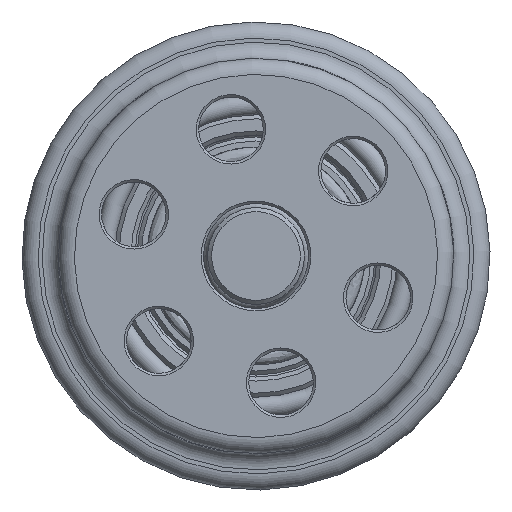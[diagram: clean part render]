
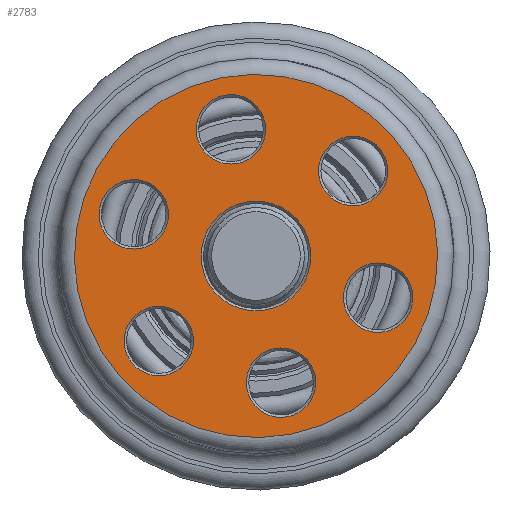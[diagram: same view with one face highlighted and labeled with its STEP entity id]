
A CAD part, left-side view. The second image highlights one B-rep face of the part: STEP entity #2783.
In plain terms, the highlighted planar face has unit normal (-1, 0, 0).
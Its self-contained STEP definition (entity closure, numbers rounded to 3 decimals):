
#363=FACE_BOUND('',#665,.T.);
#364=FACE_BOUND('',#666,.T.);
#365=FACE_BOUND('',#667,.T.);
#366=FACE_BOUND('',#668,.T.);
#367=FACE_BOUND('',#669,.T.);
#368=FACE_BOUND('',#670,.T.);
#369=FACE_BOUND('',#671,.T.);
#402=PLANE('',#3039);
#507=FACE_OUTER_BOUND('',#664,.T.);
#664=EDGE_LOOP('',(#2183,#2184));
#665=EDGE_LOOP('',(#2185,#2186));
#666=EDGE_LOOP('',(#2187,#2188));
#667=EDGE_LOOP('',(#2189,#2190));
#668=EDGE_LOOP('',(#2191,#2192));
#669=EDGE_LOOP('',(#2193,#2194));
#670=EDGE_LOOP('',(#2195,#2196));
#671=EDGE_LOOP('',(#2197));
#798=CIRCLE('',#2977,4.3);
#799=CIRCLE('',#2978,4.3);
#804=CIRCLE('',#2985,4.3);
#805=CIRCLE('',#2986,4.3);
#810=CIRCLE('',#2993,4.3);
#811=CIRCLE('',#2994,4.3);
#816=CIRCLE('',#3001,4.3);
#817=CIRCLE('',#3002,4.3);
#822=CIRCLE('',#3009,4.3);
#823=CIRCLE('',#3010,4.3);
#827=CIRCLE('',#3016,4.3);
#828=CIRCLE('',#3017,4.3);
#841=CIRCLE('',#3033,6.8);
#846=CIRCLE('',#3040,22.5);
#847=CIRCLE('',#3041,22.5);
#1114=VERTEX_POINT('',#5593);
#1115=VERTEX_POINT('',#5594);
#1120=VERTEX_POINT('',#5609);
#1121=VERTEX_POINT('',#5610);
#1126=VERTEX_POINT('',#5625);
#1127=VERTEX_POINT('',#5626);
#1132=VERTEX_POINT('',#5641);
#1133=VERTEX_POINT('',#5642);
#1138=VERTEX_POINT('',#5657);
#1139=VERTEX_POINT('',#5658);
#1143=VERTEX_POINT('',#5671);
#1144=VERTEX_POINT('',#5672);
#1151=VERTEX_POINT('',#5699);
#1156=VERTEX_POINT('',#5713);
#1157=VERTEX_POINT('',#5714);
#1471=EDGE_CURVE('',#1114,#1115,#798,.T.);
#1472=EDGE_CURVE('',#1115,#1114,#799,.T.);
#1479=EDGE_CURVE('',#1120,#1121,#804,.T.);
#1480=EDGE_CURVE('',#1121,#1120,#805,.T.);
#1487=EDGE_CURVE('',#1126,#1127,#810,.T.);
#1488=EDGE_CURVE('',#1127,#1126,#811,.T.);
#1495=EDGE_CURVE('',#1132,#1133,#816,.T.);
#1496=EDGE_CURVE('',#1133,#1132,#817,.T.);
#1503=EDGE_CURVE('',#1138,#1139,#822,.T.);
#1504=EDGE_CURVE('',#1139,#1138,#823,.T.);
#1510=EDGE_CURVE('',#1143,#1144,#827,.T.);
#1511=EDGE_CURVE('',#1144,#1143,#828,.T.);
#1527=EDGE_CURVE('',#1151,#1151,#841,.T.);
#1534=EDGE_CURVE('',#1156,#1157,#846,.T.);
#1535=EDGE_CURVE('',#1157,#1156,#847,.T.);
#2183=ORIENTED_EDGE('',*,*,#1534,.F.);
#2184=ORIENTED_EDGE('',*,*,#1535,.F.);
#2185=ORIENTED_EDGE('',*,*,#1471,.T.);
#2186=ORIENTED_EDGE('',*,*,#1472,.T.);
#2187=ORIENTED_EDGE('',*,*,#1479,.T.);
#2188=ORIENTED_EDGE('',*,*,#1480,.T.);
#2189=ORIENTED_EDGE('',*,*,#1487,.T.);
#2190=ORIENTED_EDGE('',*,*,#1488,.T.);
#2191=ORIENTED_EDGE('',*,*,#1495,.T.);
#2192=ORIENTED_EDGE('',*,*,#1496,.T.);
#2193=ORIENTED_EDGE('',*,*,#1503,.T.);
#2194=ORIENTED_EDGE('',*,*,#1504,.T.);
#2195=ORIENTED_EDGE('',*,*,#1510,.T.);
#2196=ORIENTED_EDGE('',*,*,#1511,.T.);
#2197=ORIENTED_EDGE('',*,*,#1527,.F.);
#2783=ADVANCED_FACE('',(#507,#363,#364,#365,#366,#367,#368,#369),#402,.T.);
#2977=AXIS2_PLACEMENT_3D('',#5595,#3499,#3500);
#2978=AXIS2_PLACEMENT_3D('',#5596,#3501,#3502);
#2985=AXIS2_PLACEMENT_3D('',#5611,#3517,#3518);
#2986=AXIS2_PLACEMENT_3D('',#5612,#3519,#3520);
#2993=AXIS2_PLACEMENT_3D('',#5627,#3535,#3536);
#2994=AXIS2_PLACEMENT_3D('',#5628,#3537,#3538);
#3001=AXIS2_PLACEMENT_3D('',#5643,#3553,#3554);
#3002=AXIS2_PLACEMENT_3D('',#5644,#3555,#3556);
#3009=AXIS2_PLACEMENT_3D('',#5659,#3571,#3572);
#3010=AXIS2_PLACEMENT_3D('',#5660,#3573,#3574);
#3016=AXIS2_PLACEMENT_3D('',#5673,#3587,#3588);
#3017=AXIS2_PLACEMENT_3D('',#5674,#3589,#3590);
#3033=AXIS2_PLACEMENT_3D('',#5700,#3624,#3625);
#3039=AXIS2_PLACEMENT_3D('',#5712,#3638,#3639);
#3040=AXIS2_PLACEMENT_3D('',#5715,#3640,#3641);
#3041=AXIS2_PLACEMENT_3D('',#5716,#3642,#3643);
#3499=DIRECTION('center_axis',(1.,0.,0.));
#3500=DIRECTION('ref_axis',(0.,-0.194,-0.981));
#3501=DIRECTION('center_axis',(1.,0.,0.));
#3502=DIRECTION('ref_axis',(0.,-0.194,-0.981));
#3517=DIRECTION('center_axis',(1.,0.,0.));
#3518=DIRECTION('ref_axis',(0.,-0.194,-0.981));
#3519=DIRECTION('center_axis',(1.,0.,0.));
#3520=DIRECTION('ref_axis',(0.,-0.194,-0.981));
#3535=DIRECTION('center_axis',(1.,0.,0.));
#3536=DIRECTION('ref_axis',(0.,-0.194,-0.981));
#3537=DIRECTION('center_axis',(1.,0.,0.));
#3538=DIRECTION('ref_axis',(0.,-0.194,-0.981));
#3553=DIRECTION('center_axis',(1.,0.,0.));
#3554=DIRECTION('ref_axis',(0.,-0.194,-0.981));
#3555=DIRECTION('center_axis',(1.,0.,0.));
#3556=DIRECTION('ref_axis',(0.,-0.194,-0.981));
#3571=DIRECTION('center_axis',(1.,0.,0.));
#3572=DIRECTION('ref_axis',(0.,-0.194,-0.981));
#3573=DIRECTION('center_axis',(1.,0.,0.));
#3574=DIRECTION('ref_axis',(0.,-0.194,-0.981));
#3587=DIRECTION('center_axis',(1.,0.,0.));
#3588=DIRECTION('ref_axis',(0.,-0.194,-0.981));
#3589=DIRECTION('center_axis',(1.,0.,0.));
#3590=DIRECTION('ref_axis',(0.,-0.194,-0.981));
#3624=DIRECTION('center_axis',(-1.,0.,0.));
#3625=DIRECTION('ref_axis',(0.,0.981,-0.194));
#3638=DIRECTION('center_axis',(-1.,0.,0.));
#3639=DIRECTION('ref_axis',(0.,-0.194,-0.981));
#3640=DIRECTION('center_axis',(1.,0.,0.));
#3641=DIRECTION('ref_axis',(0.,-0.981,0.194));
#3642=DIRECTION('center_axis',(1.,0.,0.));
#3643=DIRECTION('ref_axis',(0.,-0.981,0.194));
#5593=CARTESIAN_POINT('',(-23.,-12.876,6.317));
#5594=CARTESIAN_POINT('',(-23.,-11.208,14.754));
#5595=CARTESIAN_POINT('Origin',(-23.,-12.042,10.536));
#5596=CARTESIAN_POINT('Origin',(-23.,-12.042,10.536));
#5609=CARTESIAN_POINT('',(-23.,-15.979,-9.379));
#5610=CARTESIAN_POINT('',(-23.,-14.311,-0.942));
#5611=CARTESIAN_POINT('Origin',(-23.,-15.145,-5.16));
#5612=CARTESIAN_POINT('Origin',(-23.,-15.145,-5.16));
#5625=CARTESIAN_POINT('',(-23.,-3.937,-19.914));
#5626=CARTESIAN_POINT('',(-23.,-2.269,-11.478));
#5627=CARTESIAN_POINT('Origin',(-23.,-3.103,-15.696));
#5628=CARTESIAN_POINT('Origin',(-23.,-3.103,-15.696));
#5641=CARTESIAN_POINT('',(-23.,11.208,-14.754));
#5642=CARTESIAN_POINT('',(-23.,12.876,-6.317));
#5643=CARTESIAN_POINT('Origin',(-23.,12.042,-10.536));
#5644=CARTESIAN_POINT('Origin',(-23.,12.042,-10.536));
#5657=CARTESIAN_POINT('',(-23.,14.311,0.942));
#5658=CARTESIAN_POINT('',(-23.,15.979,9.379));
#5659=CARTESIAN_POINT('Origin',(-23.,15.145,5.16));
#5660=CARTESIAN_POINT('Origin',(-23.,15.145,5.16));
#5671=CARTESIAN_POINT('',(-23.,2.269,11.478));
#5672=CARTESIAN_POINT('',(-23.,3.937,19.914));
#5673=CARTESIAN_POINT('Origin',(-23.,3.103,15.696));
#5674=CARTESIAN_POINT('Origin',(-23.,3.103,15.696));
#5699=CARTESIAN_POINT('',(-23.,-6.671,1.319));
#5700=CARTESIAN_POINT('Origin',(-23.,0.,0.));
#5712=CARTESIAN_POINT('Origin',(-23.,-14.225,2.812));
#5713=CARTESIAN_POINT('',(-23.,-22.073,4.364));
#5714=CARTESIAN_POINT('',(-23.,-4.364,-22.073));
#5715=CARTESIAN_POINT('Origin',(-23.,0.,0.));
#5716=CARTESIAN_POINT('Origin',(-23.,0.,0.));
